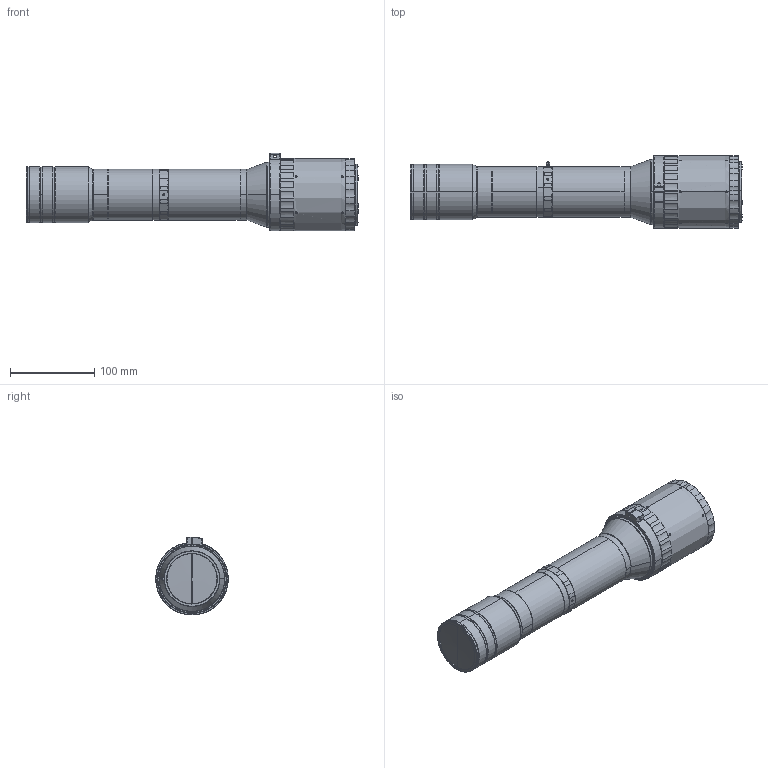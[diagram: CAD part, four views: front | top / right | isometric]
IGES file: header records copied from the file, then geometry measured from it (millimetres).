
Start section: SolidWorks IGES file using analytic representation for surfaces
Global section: file name: F:\BaiduSyncdisk\1-产品  2022-new\DTCA（2021.1.7.整体考过来）\--150M\DTCA150M-22.6C-G-M72-AL\非同轴- V1（转接件用35F-11)\3D\ASS\DTCA150M-22.4-G-M72-AL-19.5.IGS; native system: SolidWorks 2017; preprocessor: SolidWorks 2017; author: luo-PC; date: 240808.083834; units: millimetre
Bounding box: 393.97 x 86 x 92.49 mm (x, y, z)
Surface area: 108808.5 mm2 (no closed solid volume)
Topology: 0 solids, 0 shells, 528 faces, 7253 edges, 7249 vertices
Faces by surface type: revolution 384, bspline 144
